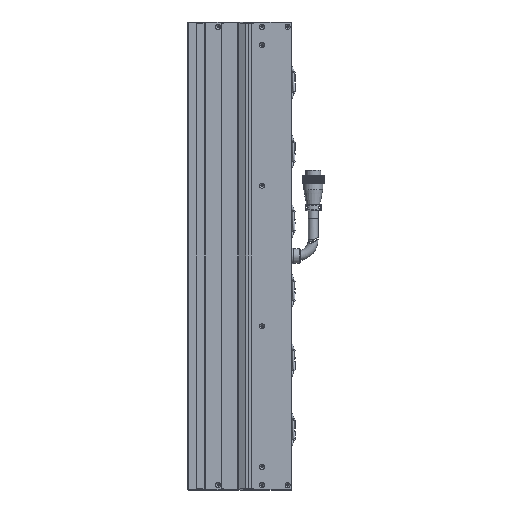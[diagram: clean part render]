
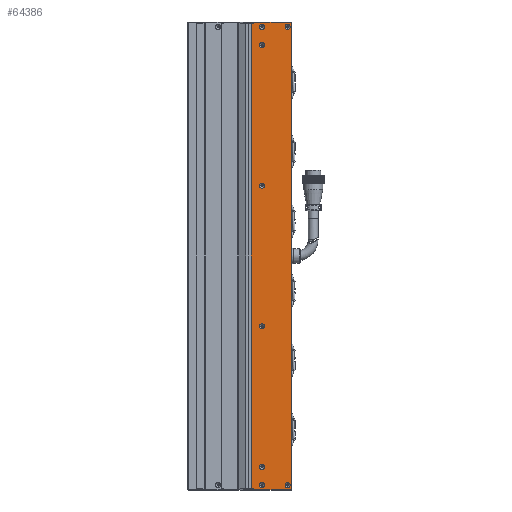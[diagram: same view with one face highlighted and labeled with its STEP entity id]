
A CAD part, left-side view. The second image highlights one B-rep face of the part: STEP entity #64386.
In plain terms, the highlighted planar face has unit normal (-1, 0, 0).
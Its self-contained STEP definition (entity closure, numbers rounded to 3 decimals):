
#348 = VERTEX_POINT ( 'NONE', #16460 ) ;
#1111 = DIRECTION ( 'NONE',  ( 0., 0., 1. ) ) ;
#1545 = AXIS2_PLACEMENT_3D ( 'NONE', #54769, #82651, #1111 ) ;
#2349 = CARTESIAN_POINT ( 'NONE',  ( -24.998, -26.5, -282.5 ) ) ;
#3982 = CARTESIAN_POINT ( 'NONE',  ( -24.998, -67.5, -277. ) ) ;
#4453 = DIRECTION ( 'NONE',  ( -1., 0., 0. ) ) ;
#5448 = ORIENTED_EDGE ( 'NONE', *, *, #53150, .T. ) ;
#6045 = EDGE_LOOP ( 'NONE', ( #106862 ) ) ;
#6123 = VECTOR ( 'NONE', #113169, 1000. ) ;
#7680 = VERTEX_POINT ( 'NONE', #110950 ) ;
#7764 = EDGE_CURVE ( 'NONE', #25924, #17589, #62256, .T. ) ;
#8256 = DIRECTION ( 'NONE',  ( 0., 0., 1. ) ) ;
#10523 = CARTESIAN_POINT ( 'NONE',  ( -24.998, -67.5, 280.15 ) ) ;
#11924 = EDGE_CURVE ( 'NONE', #93233, #7680, #17885, .T. ) ;
#13028 = DIRECTION ( 'NONE',  ( 0., 0., 1. ) ) ;
#14949 = CIRCLE ( 'NONE', #24684, 3.15 ) ;
#15365 = CIRCLE ( 'NONE', #1545, 3.15 ) ;
#15418 = EDGE_CURVE ( 'NONE', #110305, #34109, #17672, .T. ) ;
#16460 = CARTESIAN_POINT ( 'NONE',  ( -24.998, -36.5, -251.85 ) ) ;
#16611 = EDGE_CURVE ( 'NONE', #348, #348, #80707, .T. ) ;
#16674 = CARTESIAN_POINT ( 'NONE',  ( -24.998, -72.5, 281. ) ) ;
#17589 = VERTEX_POINT ( 'NONE', #89986 ) ;
#17672 = LINE ( 'NONE', #18403, #96289 ) ;
#17885 = LINE ( 'NONE', #33191, #106517 ) ;
#18403 = CARTESIAN_POINT ( 'NONE',  ( -24.998, -26.5, -274. ) ) ;
#19001 = EDGE_CURVE ( 'NONE', #88723, #88723, #32258, .T. ) ;
#19248 = DIRECTION ( 'NONE',  ( -1., 0., 0. ) ) ;
#19629 = CARTESIAN_POINT ( 'NONE',  ( -24.998, -67.5, 277. ) ) ;
#19792 = EDGE_CURVE ( 'NONE', #60633, #60633, #15365, .T. ) ;
#20003 = DIRECTION ( 'NONE',  ( 0., 0., 1. ) ) ;
#20448 = ORIENTED_EDGE ( 'NONE', *, *, #19792, .F. ) ;
#21835 = CARTESIAN_POINT ( 'NONE',  ( -24.998, -72., 282.5 ) ) ;
#22477 = CARTESIAN_POINT ( 'NONE',  ( -24.998, -72.5, -282.5 ) ) ;
#22785 = CARTESIAN_POINT ( 'NONE',  ( -24.998, -72.5, -281. ) ) ;
#22795 = DIRECTION ( 'NONE',  ( -1., 0., 0. ) ) ;
#24048 = CARTESIAN_POINT ( 'NONE',  ( -24.998, -26.5, 274. ) ) ;
#24451 = DIRECTION ( 'NONE',  ( 0., 0., -1. ) ) ;
#24684 = AXIS2_PLACEMENT_3D ( 'NONE', #85277, #103049, #85655 ) ;
#25461 = CARTESIAN_POINT ( 'NONE',  ( -24.998, -72., 281. ) ) ;
#25593 = EDGE_LOOP ( 'NONE', ( #73213 ) ) ;
#25924 = VERTEX_POINT ( 'NONE', #38146 ) ;
#27078 = CIRCLE ( 'NONE', #51032, 3.15 ) ;
#28815 = EDGE_CURVE ( 'NONE', #102779, #102779, #14949, .T. ) ;
#29135 = FACE_BOUND ( 'NONE', #50309, .T. ) ;
#30099 = CARTESIAN_POINT ( 'NONE',  ( -24.998, -36.5, 88.15 ) ) ;
#31563 = CARTESIAN_POINT ( 'NONE',  ( -24.998, -72.5, 281. ) ) ;
#31946 = FACE_BOUND ( 'NONE', #91693, .T. ) ;
#32258 = CIRCLE ( 'NONE', #110637, 3.15 ) ;
#32454 = LINE ( 'NONE', #24048, #107001 ) ;
#32551 = DIRECTION ( 'NONE',  ( 0., -1., 0. ) ) ;
#33191 = CARTESIAN_POINT ( 'NONE',  ( -24.998, -72.5, 282.5 ) ) ;
#33575 = DIRECTION ( 'NONE',  ( 0., 1., 0. ) ) ;
#34109 = VERTEX_POINT ( 'NONE', #84659 ) ;
#34147 = AXIS2_PLACEMENT_3D ( 'NONE', #31563, #76647, #49541 ) ;
#35311 = ORIENTED_EDGE ( 'NONE', *, *, #45568, .T. ) ;
#35891 = LINE ( 'NONE', #22477, #90708 ) ;
#35954 = AXIS2_PLACEMENT_3D ( 'NONE', #38133, #74185, #73789 ) ;
#36110 = LINE ( 'NONE', #22785, #80988 ) ;
#37760 = VERTEX_POINT ( 'NONE', #79472 ) ;
#38133 = CARTESIAN_POINT ( 'NONE',  ( -24.998, -36.5, -255. ) ) ;
#38146 = CARTESIAN_POINT ( 'NONE',  ( -24.998, -23.25, -281. ) ) ;
#40163 = CARTESIAN_POINT ( 'NONE',  ( -24.998, -36.5, 85. ) ) ;
#42156 = EDGE_LOOP ( 'NONE', ( #64519 ) ) ;
#42967 = DIRECTION ( 'NONE',  ( 0., -1., 0. ) ) ;
#43140 = CARTESIAN_POINT ( 'NONE',  ( -24.998, -26.5, 281. ) ) ;
#43349 = EDGE_CURVE ( 'NONE', #57411, #110305, #35891, .T. ) ;
#44005 = EDGE_LOOP ( 'NONE', ( #20448 ) ) ;
#44504 = EDGE_CURVE ( 'NONE', #64692, #64692, #61147, .T. ) ;
#44542 = FACE_BOUND ( 'NONE', #44005, .T. ) ;
#45040 = CARTESIAN_POINT ( 'NONE',  ( -24.998, -36.5, 280.15 ) ) ;
#45568 = EDGE_CURVE ( 'NONE', #7680, #55943, #32454, .T. ) ;
#46876 = EDGE_LOOP ( 'NONE', ( #5448, #73204, #60670, #67807, #113480, #35311, #114056, #48291 ) ) ;
#48291 = ORIENTED_EDGE ( 'NONE', *, *, #7764, .F. ) ;
#49541 = DIRECTION ( 'NONE',  ( 0., 0., -1. ) ) ;
#50309 = EDGE_LOOP ( 'NONE', ( #54118 ) ) ;
#51032 = AXIS2_PLACEMENT_3D ( 'NONE', #66065, #101483, #92782 ) ;
#52765 = AXIS2_PLACEMENT_3D ( 'NONE', #40163, #4453, #111709 ) ;
#52940 = FACE_BOUND ( 'NONE', #6045, .T. ) ;
#53150 = EDGE_CURVE ( 'NONE', #25924, #34109, #36110, .T. ) ;
#54037 = VECTOR ( 'NONE', #42967, 1000. ) ;
#54118 = ORIENTED_EDGE ( 'NONE', *, *, #75097, .F. ) ;
#54769 = CARTESIAN_POINT ( 'NONE',  ( -24.998, -36.5, 277. ) ) ;
#54802 = EDGE_CURVE ( 'NONE', #17589, #55943, #55386, .T. ) ;
#55386 = LINE ( 'NONE', #16674, #54037 ) ;
#55751 = FACE_BOUND ( 'NONE', #25593, .T. ) ;
#55943 = VERTEX_POINT ( 'NONE', #43140 ) ;
#57332 = CARTESIAN_POINT ( 'NONE',  ( -24.998, -36.5, -277. ) ) ;
#57411 = VERTEX_POINT ( 'NONE', #74027 ) ;
#58572 = FACE_BOUND ( 'NONE', #42156, .T. ) ;
#58723 = ORIENTED_EDGE ( 'NONE', *, *, #19001, .F. ) ;
#60308 = DIRECTION ( 'NONE',  ( 0., 0., 1. ) ) ;
#60633 = VERTEX_POINT ( 'NONE', #45040 ) ;
#60670 = ORIENTED_EDGE ( 'NONE', *, *, #43349, .F. ) ;
#61147 = CIRCLE ( 'NONE', #73584, 3.15 ) ;
#62256 = LINE ( 'NONE', #77658, #6123 ) ;
#63163 = VERTEX_POINT ( 'NONE', #70687 ) ;
#63325 = VECTOR ( 'NONE', #60308, 1000. ) ;
#63713 = CIRCLE ( 'NONE', #64065, 3.15 ) ;
#64065 = AXIS2_PLACEMENT_3D ( 'NONE', #3982, #22795, #84764 ) ;
#64386 = ADVANCED_FACE ( 'NONE', ( #85295, #44542, #58572, #29135, #55751, #112149, #31946, #52940, #88142 ), #95127, .F. ) ;
#64519 = ORIENTED_EDGE ( 'NONE', *, *, #16611, .F. ) ;
#64692 = VERTEX_POINT ( 'NONE', #73631 ) ;
#66065 = CARTESIAN_POINT ( 'NONE',  ( -24.998, -36.5, -85. ) ) ;
#67807 = ORIENTED_EDGE ( 'NONE', *, *, #102313, .T. ) ;
#70687 = CARTESIAN_POINT ( 'NONE',  ( -24.998, -36.5, -81.85 ) ) ;
#71712 = CARTESIAN_POINT ( 'NONE',  ( -24.998, -36.5, 258.15 ) ) ;
#73204 = ORIENTED_EDGE ( 'NONE', *, *, #15418, .F. ) ;
#73213 = ORIENTED_EDGE ( 'NONE', *, *, #92580, .F. ) ;
#73584 = AXIS2_PLACEMENT_3D ( 'NONE', #57332, #75412, #13028 ) ;
#73631 = CARTESIAN_POINT ( 'NONE',  ( -24.998, -36.5, -273.85 ) ) ;
#73789 = DIRECTION ( 'NONE',  ( 0., 0., 1. ) ) ;
#74027 = CARTESIAN_POINT ( 'NONE',  ( -24.998, -72., -282.5 ) ) ;
#74185 = DIRECTION ( 'NONE',  ( -1., 0., 0. ) ) ;
#75097 = EDGE_CURVE ( 'NONE', #63163, #63163, #27078, .T. ) ;
#75412 = DIRECTION ( 'NONE',  ( -1., 0., 0. ) ) ;
#75834 = ORIENTED_EDGE ( 'NONE', *, *, #115215, .F. ) ;
#76403 = ORIENTED_EDGE ( 'NONE', *, *, #28815, .F. ) ;
#76647 = DIRECTION ( 'NONE',  ( 1., 0., 0. ) ) ;
#77320 = EDGE_LOOP ( 'NONE', ( #76403 ) ) ;
#77362 = LINE ( 'NONE', #25461, #63325 ) ;
#77658 = CARTESIAN_POINT ( 'NONE',  ( -24.998, -23.25, -281. ) ) ;
#79472 = CARTESIAN_POINT ( 'NONE',  ( -24.998, -67.5, -273.85 ) ) ;
#80707 = CIRCLE ( 'NONE', #35954, 3.15 ) ;
#80988 = VECTOR ( 'NONE', #32551, 1000. ) ;
#82651 = DIRECTION ( 'NONE',  ( -1., 0., 0. ) ) ;
#84102 = VERTEX_POINT ( 'NONE', #30099 ) ;
#84659 = CARTESIAN_POINT ( 'NONE',  ( -24.998, -26.5, -281. ) ) ;
#84764 = DIRECTION ( 'NONE',  ( 0., 0., 1. ) ) ;
#85277 = CARTESIAN_POINT ( 'NONE',  ( -24.998, -36.5, 255. ) ) ;
#85295 = FACE_BOUND ( 'NONE', #85778, .T. ) ;
#85655 = DIRECTION ( 'NONE',  ( 0., 0., 1. ) ) ;
#85778 = EDGE_LOOP ( 'NONE', ( #58723 ) ) ;
#88142 = FACE_OUTER_BOUND ( 'NONE', #46876, .T. ) ;
#88723 = VERTEX_POINT ( 'NONE', #10523 ) ;
#89986 = CARTESIAN_POINT ( 'NONE',  ( -24.998, -23.25, 281. ) ) ;
#90708 = VECTOR ( 'NONE', #112051, 1000. ) ;
#91693 = EDGE_LOOP ( 'NONE', ( #75834 ) ) ;
#92580 = EDGE_CURVE ( 'NONE', #84102, #84102, #96018, .T. ) ;
#92782 = DIRECTION ( 'NONE',  ( 0., 0., 1. ) ) ;
#93233 = VERTEX_POINT ( 'NONE', #21835 ) ;
#95127 = PLANE ( 'NONE',  #34147 ) ;
#96018 = CIRCLE ( 'NONE', #52765, 3.15 ) ;
#96289 = VECTOR ( 'NONE', #8256, 1000. ) ;
#101483 = DIRECTION ( 'NONE',  ( -1., 0., 0. ) ) ;
#102313 = EDGE_CURVE ( 'NONE', #57411, #93233, #77362, .T. ) ;
#102779 = VERTEX_POINT ( 'NONE', #71712 ) ;
#103049 = DIRECTION ( 'NONE',  ( -1., 0., 0. ) ) ;
#106517 = VECTOR ( 'NONE', #33575, 1000. ) ;
#106862 = ORIENTED_EDGE ( 'NONE', *, *, #44504, .F. ) ;
#107001 = VECTOR ( 'NONE', #24451, 1000. ) ;
#110305 = VERTEX_POINT ( 'NONE', #2349 ) ;
#110637 = AXIS2_PLACEMENT_3D ( 'NONE', #19629, #19248, #20003 ) ;
#110950 = CARTESIAN_POINT ( 'NONE',  ( -24.998, -26.5, 282.5 ) ) ;
#111709 = DIRECTION ( 'NONE',  ( 0., 0., 1. ) ) ;
#112051 = DIRECTION ( 'NONE',  ( 0., 1., 0. ) ) ;
#112149 = FACE_BOUND ( 'NONE', #77320, .T. ) ;
#113169 = DIRECTION ( 'NONE',  ( 0., 0., 1. ) ) ;
#113480 = ORIENTED_EDGE ( 'NONE', *, *, #11924, .T. ) ;
#114056 = ORIENTED_EDGE ( 'NONE', *, *, #54802, .F. ) ;
#115215 = EDGE_CURVE ( 'NONE', #37760, #37760, #63713, .T. ) ;
